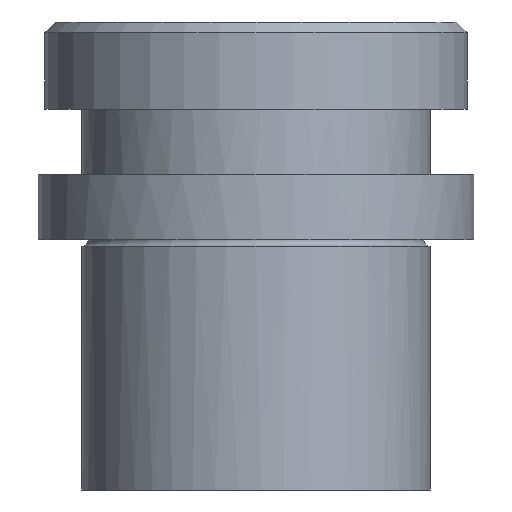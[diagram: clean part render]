
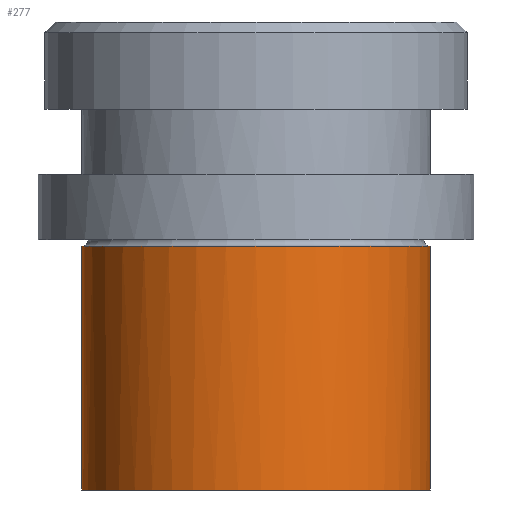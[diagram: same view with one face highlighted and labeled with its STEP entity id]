
A CAD part, front view. The second image highlights one B-rep face of the part: STEP entity #277.
In plain terms, the highlighted cylindrical face has radius 16 mm (diameter 32 mm), a partial arc.
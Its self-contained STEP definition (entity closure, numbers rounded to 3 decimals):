
#109=CARTESIAN_POINT('Control Point',(-16.,0.,-23.)) ;
#110=CARTESIAN_POINT('Control Point',(-16.,-1.568,-23.)) ;
#111=CARTESIAN_POINT('Control Point',(-15.808,-3.135,-23.)) ;
#112=CARTESIAN_POINT('Control Point',(-15.424,-4.672,-23.)) ;
#113=CARTESIAN_POINT('Control Point',(-14.288,-7.619,-23.)) ;
#114=CARTESIAN_POINT('Control Point',(-12.473,-10.205,-23.)) ;
#115=CARTESIAN_POINT('Control Point',(-11.412,-11.38,-23.)) ;
#116=CARTESIAN_POINT('Control Point',(-9.022,-13.446,-23.)) ;
#117=CARTESIAN_POINT('Control Point',(-6.205,-14.874,-23.)) ;
#118=CARTESIAN_POINT('Control Point',(-4.715,-15.411,-23.)) ;
#119=CARTESIAN_POINT('Control Point',(-1.634,-16.109,-23.)) ;
#120=CARTESIAN_POINT('Control Point',(1.524,-16.044,-23.)) ;
#121=CARTESIAN_POINT('Control Point',(3.091,-15.817,-23.)) ;
#122=CARTESIAN_POINT('Control Point',(6.138,-14.984,-23.)) ;
#123=CARTESIAN_POINT('Control Point',(8.894,-13.44,-23.)) ;
#124=CARTESIAN_POINT('Control Point',(10.17,-12.502,-23.)) ;
#125=CARTESIAN_POINT('Control Point',(12.466,-10.333,-23.)) ;
#126=CARTESIAN_POINT('Control Point',(14.171,-7.674,-23.)) ;
#127=CARTESIAN_POINT('Control Point',(14.856,-6.246,-23.)) ;
#128=CARTESIAN_POINT('Control Point',(15.567,-4.131,-23.)) ;
#129=CARTESIAN_POINT('Control Point',(15.902,-1.939,-23.)) ;
#130=CARTESIAN_POINT('Control Point',(15.967,-1.294,-23.)) ;
#131=CARTESIAN_POINT('Control Point',(16.,-0.647,-23.)) ;
#132=CARTESIAN_POINT('Control Point',(16.,0.,-23.)) ;
#133=CARTESIAN_POINT('Vertex',(-16.,0.,-23.)) ;
#135=CARTESIAN_POINT('Vertex',(16.,0.,-23.)) ;
#247=CARTESIAN_POINT('Axis2P3D Location',(0.,0.,20.)) ;
#252=CARTESIAN_POINT('Line Origine',(16.,0.,20.)) ;
#256=CARTESIAN_POINT('Vertex',(16.,0.,-0.6)) ;
#259=CARTESIAN_POINT('Axis2P3D Location',(0.,0.,-0.6)) ;
#263=CARTESIAN_POINT('Vertex',(-16.,0.,-0.6)) ;
#266=CARTESIAN_POINT('Line Origine',(-16.,0.,20.)) ;
#248=DIRECTION('Axis2P3D Direction',(0.,0.,-1.)) ;
#249=DIRECTION('Axis2P3D XDirection',(1.,0.,0.)) ;
#253=DIRECTION('Vector Direction',(0.,0.,-1.)) ;
#260=DIRECTION('Axis2P3D Direction',(0.,0.,-1.)) ;
#267=DIRECTION('Vector Direction',(0.,0.,-1.)) ;
#250=AXIS2_PLACEMENT_3D('Cylinder Axis2P3D',#247,#248,#249) ;
#261=AXIS2_PLACEMENT_3D('Circle Axis2P3D',#259,#260,$) ;
#272=ORIENTED_EDGE('',*,*,#258,.T.) ;
#273=ORIENTED_EDGE('',*,*,#265,.F.) ;
#274=ORIENTED_EDGE('',*,*,#270,.T.) ;
#275=ORIENTED_EDGE('',*,*,#137,.T.) ;
#254=VECTOR('Line Direction',#253,1.) ;
#268=VECTOR('Line Direction',#267,1.) ;
#277=ADVANCED_FACE('735-20',(#276),#251,.T.) ;
#108=B_SPLINE_CURVE_WITH_KNOTS('',5,(#109,#110,#111,#112,#113,#114,#115,#116,#117,#118,#119,#120,#121,#122,#123,#124,#125,#126,#127,#128,#129,#130,#131,#132),.UNSPECIFIED.,.F.,.U.,(6,3,3,3,3,3,3,6),(0.,11.085,22.17,33.255,44.34,55.425,66.51,71.085),.UNSPECIFIED.) ;
#262=CIRCLE('generated circle',#261,16.) ;
#251=CYLINDRICAL_SURFACE('generated cylinder',#250,16.) ;
#137=EDGE_CURVE('',#134,#136,#108,.T.) ;
#258=EDGE_CURVE('',#136,#257,#255,.F.) ;
#265=EDGE_CURVE('',#264,#257,#262,.F.) ;
#270=EDGE_CURVE('',#264,#134,#269,.T.) ;
#271=EDGE_LOOP('',(#272,#273,#274,#275)) ;
#276=FACE_OUTER_BOUND('',#271,.T.) ;
#255=LINE('Line',#252,#254) ;
#269=LINE('Line',#266,#268) ;
#134=VERTEX_POINT('',#133) ;
#136=VERTEX_POINT('',#135) ;
#257=VERTEX_POINT('',#256) ;
#264=VERTEX_POINT('',#263) ;
